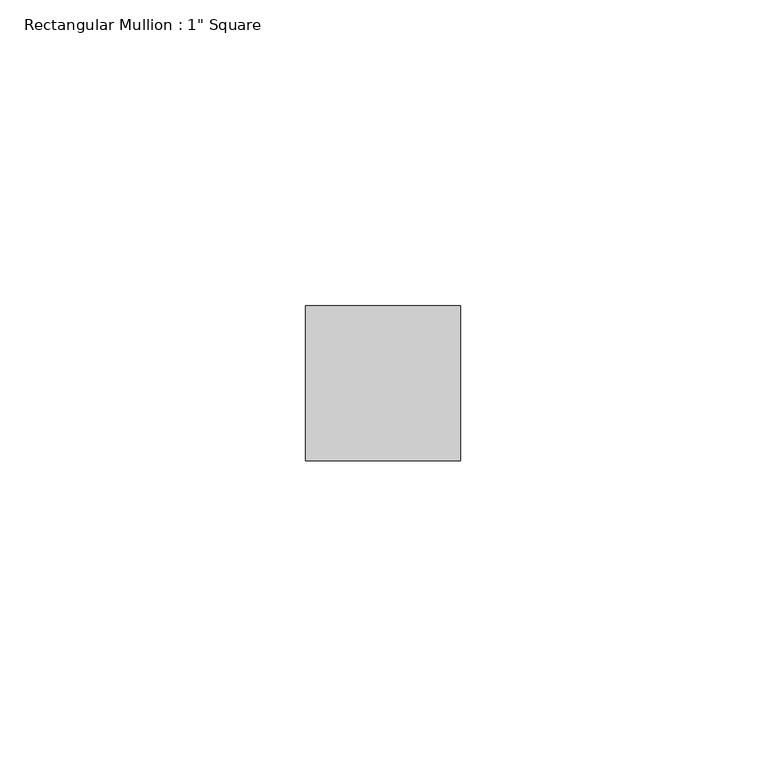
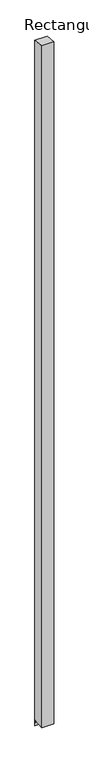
"""IFC4 building model written with IfcOpenShell, lengths in millimetres: member geometry."""

from ifc_helpers import new_model, si_unit, frame, origin, place, context, project, spatial, polyline, outline, extrude, source, transform, mapped, element, save


def member_dc7d8ed0(model_context):
    return source(origin(), model_context, "Body", "SweptSolid", [
        extrude(outline(polyline([(-12.7, 1.6000496), (12.7, -1.6000496), (12.7, -1523.203125), (11.0128906, -1509.8121094), (-12.7, -1512.7996528), (-12.7, 1.6000496)])), frame((-25.4, 0.0, 0.0), z_axis=(1.0, 0.0, 0.0), x_axis=(0.0, 1.0, 0.0)), (0.0, 0.0, 1.0), 25.4),
    ])


if __name__ == "__main__":
    model = new_model("IFC4")
    model_context = context("Model", 3, world=origin())
    ifc_project = project(units=[si_unit("LENGTHUNIT", "METRE", prefix="MILLI")], contexts=[model_context])
    site = spatial("IfcSite", under=ifc_project)
    building = spatial("IfcBuilding", under=site)
    placement = place(None, origin())
    member_shape = member_dc7d8ed0(model_context)
    element("IfcMember", 1, ObjectType="Rectangular Mullion : 1\" Square", at=placement, inside=building, context=model_context, shape_type="MappedRepresentation", body=[
        mapped(member_shape, transform((0.0, 0.0, 0.0), x_axis=(1.0, 0.0, 0.0), y_axis=(0.0, 1.0, 0.0), z_axis=(0.0, 0.0, 1.0))),
    ])
    save(model, "model.ifc")
